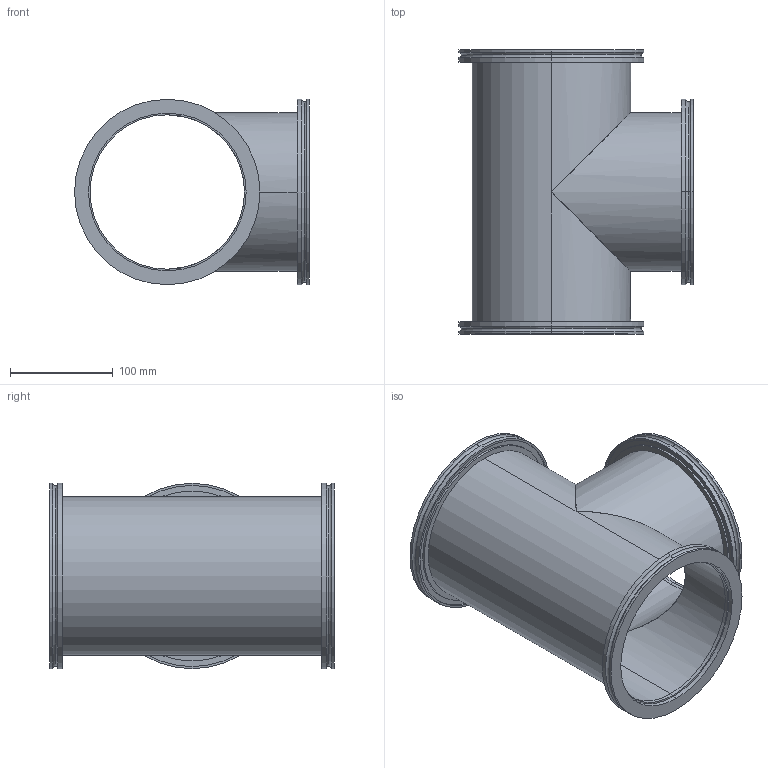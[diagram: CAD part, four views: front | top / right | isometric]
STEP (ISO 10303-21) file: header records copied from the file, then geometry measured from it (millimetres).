
FILE_DESCRIPTION (( 'STEP AP214' ), '1' );
FILE_NAME ('W4TS160.STEP', '2020-10-12T14:43:04', ( '' ), ( '' ), 'SwSTEP 2.0', 'SolidWorks 2020', '' );
FILE_SCHEMA (( 'AUTOMOTIVE_DESIGN' ));
Length unit declared in the file: millimetre
Products named in the file (1): W4TS160
Bounding box: 228 x 276 x 180 mm (x, y, z)
Volume: 504403.9 mm3; surface area: 380892.2 mm2
Topology: 5 solids, 5 shells, 89 faces, 184 edges, 114 vertices
Faces by surface type: cylinder 52, plane 25, torus 12
Entity records: 2478 total; most frequent: DIRECTION 466, CARTESIAN_POINT 424, ORIENTED_EDGE 368, AXIS2_PLACEMENT_3D 204, EDGE_CURVE 184, CIRCLE 114, VERTEX_POINT 114, EDGE_LOOP 110
